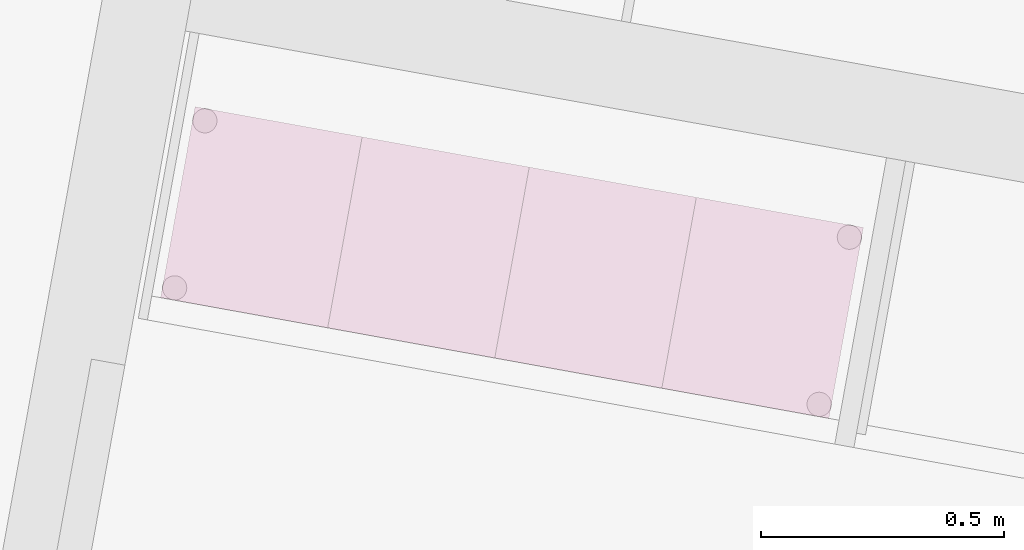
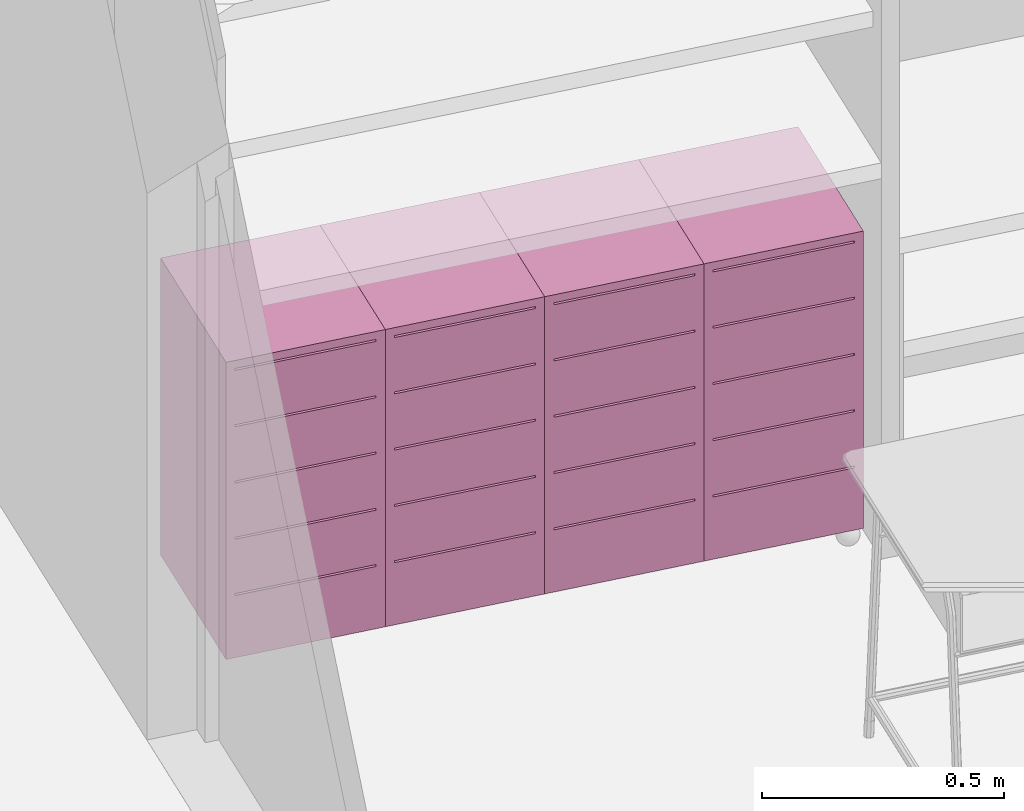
# One storey, part 18 of 79: 4 furnishings.
"""IFC2X3 building model written with IfcOpenShell, lengths in metres."""

from ifc_helpers import new_model, entity, si_unit, converted_unit, derived_unit, money_unit, direction, frame, origin_with_axes, place, context, subcontext, project, spatial, open_shell, faceted_brep, surface_model, source, transform, mapped, material, type_object, element, save


model = new_model("IFC2X3")

# Units and contexts
model_context = context("Model", 3, precision=1e-05, world=origin_with_axes(), true_north=direction((0.0, 1.0)))
body_context = subcontext(model_context, "Body", "Model", "MODEL_VIEW")
ifc_project = project(units=[si_unit("LENGTHUNIT", "METRE"), si_unit("AREAUNIT", "SQUARE_METRE"), si_unit("VOLUMEUNIT", "CUBIC_METRE"), converted_unit("PLANEANGLEUNIT", "DEGREE", entity("IfcPlaneAngleMeasure", 0.0174532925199), si_unit("PLANEANGLEUNIT", "RADIAN"), dimensions=[0, 0, 0, 0, 0, 0, 0]), money_unit("CHF"), converted_unit("TIMEUNIT", "Year", entity("IfcTimeMeasure", 31556926.0), si_unit("TIMEUNIT", "SECOND"), dimensions=[0, 0, 1, 0, 0, 0, 0]), si_unit("MASSUNIT", "GRAM", prefix="KILO"), si_unit("THERMODYNAMICTEMPERATUREUNIT", "DEGREE_CELSIUS"), si_unit("LUMINOUSINTENSITYUNIT", "LUMEN"), si_unit("ENERGYUNIT", "JOULE", prefix="MEGA"), derived_unit("THERMALCONDUCTANCEUNIT", [(si_unit("POWERUNIT", "WATT"), 1), (si_unit("LENGTHUNIT", "METRE"), -1), (si_unit("THERMODYNAMICTEMPERATUREUNIT", "KELVIN"), -1)]), derived_unit("SPECIFICHEATCAPACITYUNIT", [(si_unit("ENERGYUNIT", "JOULE"), 1), (si_unit("MASSUNIT", "GRAM", prefix="KILO"), -1), (si_unit("THERMODYNAMICTEMPERATUREUNIT", "KELVIN"), -1)]), derived_unit("MASSDENSITYUNIT", [(si_unit("MASSUNIT", "GRAM", prefix="KILO"), 1), (si_unit("VOLUMEUNIT", "CUBIC_METRE"), -1)])], contexts=[model_context])

# Site, building, storey
site_placement = place(None, frame((0.0, 0.0, 0.0), z_axis=(0.0, 0.0, 1.0), x_axis=(-0.177771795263, -0.984071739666, 0.0)))
site = spatial("IfcSite", under=ifc_project, at=site_placement, Name="Site", CompositionType="ELEMENT")
building_placement = place(site_placement, origin_with_axes())
building = spatial("IfcBuilding", under=site, at=building_placement, Name="Bâtiment", CompositionType="ELEMENT")
storey_placement = place(building_placement, origin_with_axes())
storey = spatial("IfcBuildingStorey", under=building, at=storey_placement, Name="RDC", CompositionType="ELEMENT", Elevation=0.0)

# Furnishings
ifc_material = material(Name="Matériau de construction IFC")
furnishing_element_type = type_object("IfcFurnishingElementType", Name="Caisson à roulettes 3 21")
shared_shape = source(origin_with_axes(), body_context, "Body", "SurfaceModel", [
    surface_model("IfcShellBasedSurfaceModel", [(0.33, 0.02, 0.0), (0.02, 0.02, 0.0), (0.02, 0.4, 0.0), (0.33, 0.4, 0.0)], [open_shell([[[0, 1, 2, 3]]])]),
    faceted_brep([(0.0, 0.4, 0.0), (0.35, 0.4, 0.0), (0.35, 0.0, 0.0), (0.0, 0.0, 0.0), (0.0, 0.4, 0.75), (0.35, 0.4, 0.75), (0.02, 0.4, 0.02), (0.33, 0.4, 0.02), (0.33, 0.4, 0.73), (0.02, 0.4, 0.73), (0.35, 0.0, 0.75), (0.0, 0.0, 0.75), (0.02, 0.0, 0.02), (0.02, 0.0, 0.73), (0.33, 0.0, 0.73), (0.33, 0.0, 0.02)], [[[0, 1, 2, 3]], [[0, 4, 5, 1], [6, 7, 8, 9]], [[1, 5, 10, 2]], [[3, 2, 10, 11], [12, 13, 14, 15]], [[4, 0, 3, 11]], [[5, 4, 11, 10]], [[7, 6, 12, 15]], [[8, 7, 15, 14]], [[9, 8, 14, 13]], [[6, 9, 13, 12]]]),
    faceted_brep([(0.33, 0.4, 0.02), (0.02, 0.4, 0.02), (0.02, 0.4, 0.73), (0.33, 0.4, 0.73), (0.33, 0.38, 0.02), (0.02, 0.38, 0.02), (0.02, 0.38, 0.73), (0.33, 0.38, 0.73)], [[[0, 1, 2, 3]], [[1, 0, 4, 5]], [[2, 1, 5, 6]], [[3, 2, 6, 7]], [[0, 3, 7, 4]], [[5, 4, 7, 6]]]),
    faceted_brep([(0.33, 0.0, 0.02), (0.02, 0.0, 0.02), (0.02, 0.38, 0.02), (0.33, 0.38, 0.02), (0.33, 0.0, 0.157), (0.02, 0.0, 0.157), (0.02, 0.38, 0.157), (0.33, 0.38, 0.157)], [[[0, 1, 2, 3]], [[1, 0, 4, 5]], [[2, 1, 5, 6]], [[3, 2, 6, 7]], [[0, 3, 7, 4]], [[5, 4, 7, 6]]]),
    faceted_brep([(0.33, 0.0, 0.162), (0.02, 0.0, 0.162), (0.02, 0.38, 0.162), (0.33, 0.38, 0.162), (0.33, 0.0, 0.299), (0.02, 0.0, 0.299), (0.02, 0.38, 0.299), (0.33, 0.38, 0.299)], [[[0, 1, 2, 3]], [[1, 0, 4, 5]], [[2, 1, 5, 6]], [[3, 2, 6, 7]], [[0, 3, 7, 4]], [[5, 4, 7, 6]]]),
    faceted_brep([(0.33, 0.0, 0.304), (0.02, 0.0, 0.304), (0.02, 0.38, 0.304), (0.33, 0.38, 0.304), (0.33, 0.0, 0.441), (0.02, 0.0, 0.441), (0.02, 0.38, 0.441), (0.33, 0.38, 0.441)], [[[0, 1, 2, 3]], [[1, 0, 4, 5]], [[2, 1, 5, 6]], [[3, 2, 6, 7]], [[0, 3, 7, 4]], [[5, 4, 7, 6]]]),
    faceted_brep([(0.33, 0.0, 0.446), (0.02, 0.0, 0.446), (0.02, 0.38, 0.446), (0.33, 0.38, 0.446), (0.33, 0.0, 0.583), (0.02, 0.0, 0.583), (0.02, 0.38, 0.583), (0.33, 0.38, 0.583)], [[[0, 1, 2, 3]], [[1, 0, 4, 5]], [[2, 1, 5, 6]], [[3, 2, 6, 7]], [[0, 3, 7, 4]], [[5, 4, 7, 6]]]),
    faceted_brep([(0.33, 0.0, 0.588), (0.02, 0.0, 0.588), (0.02, 0.38, 0.588), (0.33, 0.38, 0.588), (0.33, 0.0, 0.725), (0.02, 0.0, 0.725), (0.02, 0.38, 0.725), (0.33, 0.38, 0.725)], [[[0, 1, 2, 3]], [[1, 0, 4, 5]], [[2, 1, 5, 6]], [[3, 2, 6, 7]], [[0, 3, 7, 4]], [[5, 4, 7, 6]]]),
])
for number, where, z_axis, x_axis in (
    (1, (119.834860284, -156.399529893, 0.05), (0.0, 0.0, 1.0), (0.0, 1.0, 0.0)),
    (2, (119.834860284, -156.049529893, 0.05), (0.0, 0.0, 1.0), (0.0, 1.0, 0.0)),
    (3, (119.834860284, -155.699529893, 0.05), (0.0, 0.0, 1.0), (0.0, 1.0, 0.0)),
    (4, (119.834860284, -155.349529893, 0.05), (0.0, 0.0, 1.0), (0.0, 1.0, 0.0)),
):
    element("IfcFurnishingElement", number, at=place(storey_placement, frame(where, z_axis=z_axis, x_axis=x_axis)), inside=storey, type_object=furnishing_element_type, material=ifc_material, Name="tiroirs-classe", ObjectType="SYSTEM_FURNITURE", context=body_context, shape_type="MappedRepresentation", body=[
        mapped(shared_shape, transform((0.0, 0.0, 0.0))),
    ])

save(model, "model.ifc")
